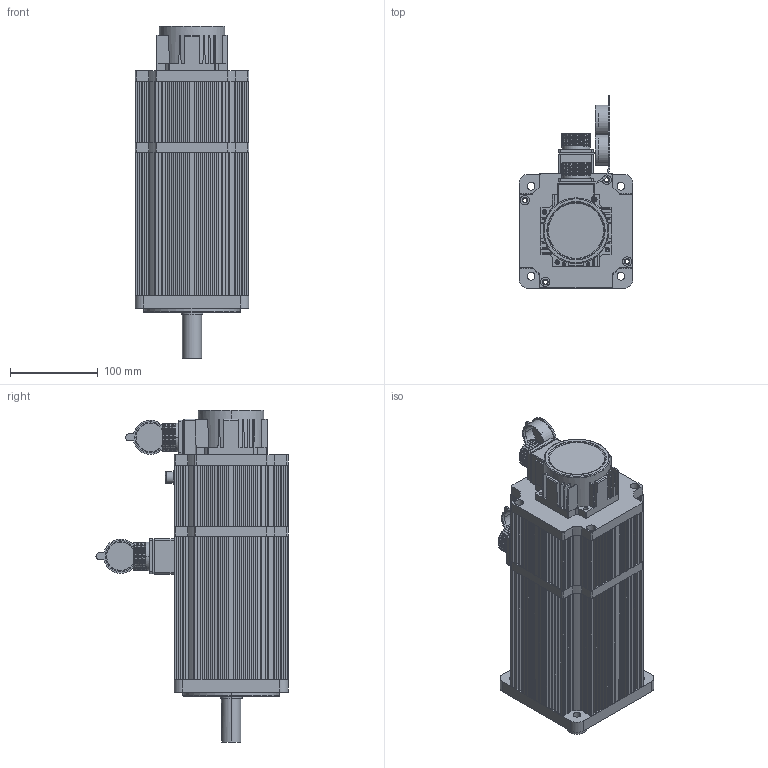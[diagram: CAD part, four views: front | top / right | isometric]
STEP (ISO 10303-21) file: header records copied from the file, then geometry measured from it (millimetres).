
FILE_DESCRIPTION (( 'STEP AP203' ), '1' );
FILE_NAME ('130 15N.M1500R抱闸.STEP', '2019-04-19T08:36:38', ( '微软用户' ), ( '微软中国' ), 'SwSTEP 2.0', 'SolidWorks 2016', '' );
FILE_SCHEMA (( 'CONFIG_CONTROL_DESIGN' ));
Length unit declared in the file: millimetre
Products named in the file (15): 130惕掅儂褲; 130惕掅綴裔; 惕掅脣芛; 130儂褲; 130ヶ裔; 130 15N.M1500R惕掅; 4郋瑤脣; 130綴裔; 瑤脣價釱; 晤鎢ん欶; 瑤脣々菜; 130 6N.M惕掅粣; 130-4郋瑤脣釱; 15郋瑤脣; 15郋瑤脣釱
Assembly tree (15 placements, depth 3):
  130 15N.M1500R惕掅
    130ヶ裔
    130綴裔
    晤鎢ん欶
    130 6N.M惕掅粣
    130惕掅綴裔
    130儂褲
    130-4郋瑤脣釱
      4郋瑤脣
      瑤脣價釱
      瑤脣々菜
    15郋瑤脣釱
      15郋瑤脣
      瑤脣々菜
    130惕掅儂褲
    惕掅脣芛
Bounding box: 130 x 219.29 x 379 mm (x, y, z)
Volume: 1280189.3 mm3; surface area: 632087.2 mm2
Topology: 14 solids, 14 shells, 1857 faces, 5049 edges, 3276 vertices
Faces by surface type: plane 996, cylinder 733, torus 49, sphere 36, cone 35, bspline 8
Entity records: 61825 total; most frequent: CARTESIAN_POINT 14071, ORIENTED_EDGE 9686, DIRECTION 9635, EDGE_CURVE 4843, AXIS2_PLACEMENT_3D 3247, VERTEX_POINT 3176, LINE 3141, VECTOR 3141
